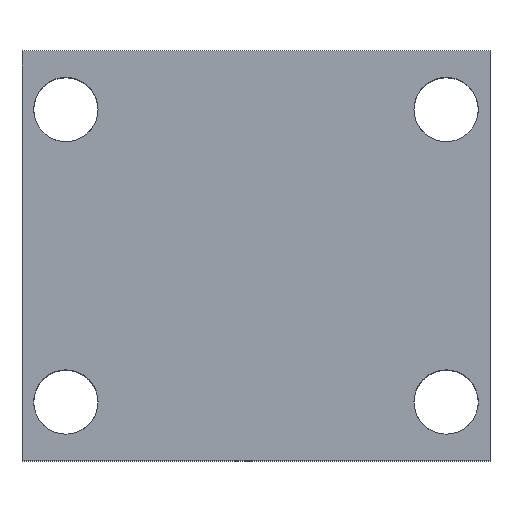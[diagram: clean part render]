
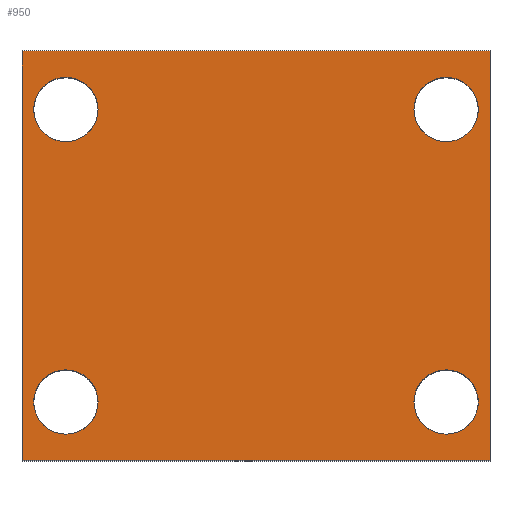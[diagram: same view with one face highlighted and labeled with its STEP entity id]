
A CAD part, top view. The second image highlights one B-rep face of the part: STEP entity #950.
In plain terms, the highlighted planar face has unit normal (0, 0, 1).
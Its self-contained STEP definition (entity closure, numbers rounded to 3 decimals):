
#100 = DIRECTION ( 'NONE',  ( 0., 0., -1. ) ) ;
#104 = ORIENTED_EDGE ( 'NONE', *, *, #6876, .F. ) ;
#159 = CARTESIAN_POINT ( 'NONE',  ( 76., 120., 52.5 ) ) ;
#176 = VERTEX_POINT ( 'NONE', #16468 ) ;
#187 = CIRCLE ( 'NONE', #13057, 11. ) ;
#255 = VERTEX_POINT ( 'NONE', #15032 ) ;
#393 = EDGE_CURVE ( 'NONE', #3187, #17435, #13123, .T. ) ;
#635 = ORIENTED_EDGE ( 'NONE', *, *, #12275, .T. ) ;
#872 = EDGE_LOOP ( 'NONE', ( #9556, #8804, #104, #1027 ) ) ;
#950 = ADVANCED_FACE ( 'NONE', ( #11684, #4582, #8851, #7937, #8405 ), #4528, .F. ) ;
#966 = AXIS2_PLACEMENT_3D ( 'NONE', #16345, #8192, #17710 ) ;
#974 = VERTEX_POINT ( 'NONE', #9606 ) ;
#1027 = ORIENTED_EDGE ( 'NONE', *, *, #9418, .T. ) ;
#1116 = ORIENTED_EDGE ( 'NONE', *, *, #5574, .T. ) ;
#1321 = DIRECTION ( 'NONE',  ( -1., 0., 0. ) ) ;
#1445 = DIRECTION ( 'NONE',  ( 0., 0., -1. ) ) ;
#1598 = DIRECTION ( 'NONE',  ( 0., -1., 0. ) ) ;
#1798 = ORIENTED_EDGE ( 'NONE', *, *, #10511, .T. ) ;
#2377 = CARTESIAN_POINT ( 'NONE',  ( 80., 140., 52.5 ) ) ;
#2559 = CIRCLE ( 'NONE', #11455, 11. ) ;
#3187 = VERTEX_POINT ( 'NONE', #159 ) ;
#3361 = VERTEX_POINT ( 'NONE', #12255 ) ;
#3375 = DIRECTION ( 'NONE',  ( 0., 0., -1. ) ) ;
#3400 = VECTOR ( 'NONE', #1598, 1000. ) ;
#3684 = EDGE_CURVE ( 'NONE', #13992, #15959, #14019, .T. ) ;
#3953 = CARTESIAN_POINT ( 'NONE',  ( -65., 20., 52.5 ) ) ;
#4528 = PLANE ( 'NONE',  #15364 ) ;
#4582 = FACE_BOUND ( 'NONE', #18047, .T. ) ;
#4817 = CIRCLE ( 'NONE', #15383, 11. ) ;
#5145 = ORIENTED_EDGE ( 'NONE', *, *, #17924, .T. ) ;
#5342 = CARTESIAN_POINT ( 'NONE',  ( 65., 120., 52.5 ) ) ;
#5399 = DIRECTION ( 'NONE',  ( -1., 0., 0. ) ) ;
#5474 = CARTESIAN_POINT ( 'NONE',  ( 65., 20., 52.5 ) ) ;
#5574 = EDGE_CURVE ( 'NONE', #176, #974, #4817, .T. ) ;
#5956 = CARTESIAN_POINT ( 'NONE',  ( -80., 140., 52.5 ) ) ;
#6021 = DIRECTION ( 'NONE',  ( -1., 0., 0. ) ) ;
#6091 = EDGE_CURVE ( 'NONE', #6383, #9186, #2559, .T. ) ;
#6293 = CIRCLE ( 'NONE', #966, 11. ) ;
#6383 = VERTEX_POINT ( 'NONE', #10078 ) ;
#6721 = DIRECTION ( 'NONE',  ( 1., 0., 0. ) ) ;
#6835 = VERTEX_POINT ( 'NONE', #9509 ) ;
#6876 = EDGE_CURVE ( 'NONE', #3361, #255, #10816, .T. ) ;
#6922 = DIRECTION ( 'NONE',  ( -1., 0., 0. ) ) ;
#7213 = LINE ( 'NONE', #11568, #3400 ) ;
#7257 = AXIS2_PLACEMENT_3D ( 'NONE', #5474, #15196, #6922 ) ;
#7297 = VECTOR ( 'NONE', #8221, 1000. ) ;
#7304 = CARTESIAN_POINT ( 'NONE',  ( 54., 20., 52.5 ) ) ;
#7461 = CARTESIAN_POINT ( 'NONE',  ( 54., 120., 52.5 ) ) ;
#7817 = EDGE_LOOP ( 'NONE', ( #1798, #14366 ) ) ;
#7836 = AXIS2_PLACEMENT_3D ( 'NONE', #17983, #9915, #1321 ) ;
#7937 = FACE_BOUND ( 'NONE', #7817, .T. ) ;
#8192 = DIRECTION ( 'NONE',  ( 0., 0., -1. ) ) ;
#8221 = DIRECTION ( 'NONE',  ( 1., 0., 0. ) ) ;
#8329 = ORIENTED_EDGE ( 'NONE', *, *, #16898, .T. ) ;
#8372 = AXIS2_PLACEMENT_3D ( 'NONE', #5342, #3375, #11877 ) ;
#8405 = FACE_OUTER_BOUND ( 'NONE', #872, .T. ) ;
#8512 = CARTESIAN_POINT ( 'NONE',  ( 65., 20., 52.5 ) ) ;
#8712 = CARTESIAN_POINT ( 'NONE',  ( -65., 120., 52.5 ) ) ;
#8804 = ORIENTED_EDGE ( 'NONE', *, *, #15153, .F. ) ;
#8851 = FACE_BOUND ( 'NONE', #9604, .T. ) ;
#9186 = VERTEX_POINT ( 'NONE', #9281 ) ;
#9209 = CIRCLE ( 'NONE', #7257, 11. ) ;
#9281 = CARTESIAN_POINT ( 'NONE',  ( -76., 120., 52.5 ) ) ;
#9389 = VERTEX_POINT ( 'NONE', #7304 ) ;
#9418 = EDGE_CURVE ( 'NONE', #3361, #13992, #7213, .T. ) ;
#9509 = CARTESIAN_POINT ( 'NONE',  ( 76., 20., 52.5 ) ) ;
#9544 = DIRECTION ( 'NONE',  ( 0., -1., 0. ) ) ;
#9556 = ORIENTED_EDGE ( 'NONE', *, *, #3684, .T. ) ;
#9604 = EDGE_LOOP ( 'NONE', ( #8329, #5145 ) ) ;
#9606 = CARTESIAN_POINT ( 'NONE',  ( -54., 20., 52.5 ) ) ;
#9915 = DIRECTION ( 'NONE',  ( 0., 0., -1. ) ) ;
#9935 = DIRECTION ( 'NONE',  ( -1., 0., 0. ) ) ;
#10031 = CARTESIAN_POINT ( 'NONE',  ( -65., 20., 52.5 ) ) ;
#10078 = CARTESIAN_POINT ( 'NONE',  ( -54., 120., 52.5 ) ) ;
#10122 = DIRECTION ( 'NONE',  ( -1., 0., 0. ) ) ;
#10511 = EDGE_CURVE ( 'NONE', #17435, #3187, #6293, .T. ) ;
#10816 = LINE ( 'NONE', #10902, #17529 ) ;
#10902 = CARTESIAN_POINT ( 'NONE',  ( -80., 140., 52.5 ) ) ;
#11423 = DIRECTION ( 'NONE',  ( -1., 0., 0. ) ) ;
#11455 = AXIS2_PLACEMENT_3D ( 'NONE', #8712, #100, #10122 ) ;
#11568 = CARTESIAN_POINT ( 'NONE',  ( -80., 140., 52.5 ) ) ;
#11684 = FACE_BOUND ( 'NONE', #13879, .T. ) ;
#11877 = DIRECTION ( 'NONE',  ( -1., 0., 0. ) ) ;
#12255 = CARTESIAN_POINT ( 'NONE',  ( -80., 140., 52.5 ) ) ;
#12275 = EDGE_CURVE ( 'NONE', #974, #176, #12798, .T. ) ;
#12798 = CIRCLE ( 'NONE', #14050, 11. ) ;
#12916 = DIRECTION ( 'NONE',  ( 0., 0., -1. ) ) ;
#12987 = CARTESIAN_POINT ( 'NONE',  ( 80., 0., 52.5 ) ) ;
#13057 = AXIS2_PLACEMENT_3D ( 'NONE', #8512, #18002, #9935 ) ;
#13123 = CIRCLE ( 'NONE', #8372, 11. ) ;
#13164 = EDGE_CURVE ( 'NONE', #9186, #6383, #15949, .T. ) ;
#13206 = ORIENTED_EDGE ( 'NONE', *, *, #6091, .T. ) ;
#13378 = LINE ( 'NONE', #2377, #16948 ) ;
#13756 = DIRECTION ( 'NONE',  ( 0., 0., -1. ) ) ;
#13879 = EDGE_LOOP ( 'NONE', ( #17154, #13206 ) ) ;
#13938 = CARTESIAN_POINT ( 'NONE',  ( -80., 0., 52.5 ) ) ;
#13992 = VERTEX_POINT ( 'NONE', #13938 ) ;
#14019 = LINE ( 'NONE', #16370, #7297 ) ;
#14050 = AXIS2_PLACEMENT_3D ( 'NONE', #3953, #13756, #5399 ) ;
#14366 = ORIENTED_EDGE ( 'NONE', *, *, #393, .T. ) ;
#15032 = CARTESIAN_POINT ( 'NONE',  ( 80., 140., 52.5 ) ) ;
#15153 = EDGE_CURVE ( 'NONE', #255, #15959, #13378, .T. ) ;
#15196 = DIRECTION ( 'NONE',  ( 0., 0., -1. ) ) ;
#15364 = AXIS2_PLACEMENT_3D ( 'NONE', #5956, #12916, #6021 ) ;
#15383 = AXIS2_PLACEMENT_3D ( 'NONE', #10031, #1445, #11423 ) ;
#15949 = CIRCLE ( 'NONE', #7836, 11. ) ;
#15959 = VERTEX_POINT ( 'NONE', #12987 ) ;
#16345 = CARTESIAN_POINT ( 'NONE',  ( 65., 120., 52.5 ) ) ;
#16370 = CARTESIAN_POINT ( 'NONE',  ( -80., 0., 52.5 ) ) ;
#16468 = CARTESIAN_POINT ( 'NONE',  ( -76., 20., 52.5 ) ) ;
#16898 = EDGE_CURVE ( 'NONE', #9389, #6835, #9209, .T. ) ;
#16948 = VECTOR ( 'NONE', #9544, 1000. ) ;
#17154 = ORIENTED_EDGE ( 'NONE', *, *, #13164, .T. ) ;
#17435 = VERTEX_POINT ( 'NONE', #7461 ) ;
#17529 = VECTOR ( 'NONE', #6721, 1000. ) ;
#17710 = DIRECTION ( 'NONE',  ( -1., 0., 0. ) ) ;
#17924 = EDGE_CURVE ( 'NONE', #6835, #9389, #187, .T. ) ;
#17983 = CARTESIAN_POINT ( 'NONE',  ( -65., 120., 52.5 ) ) ;
#18002 = DIRECTION ( 'NONE',  ( 0., 0., -1. ) ) ;
#18047 = EDGE_LOOP ( 'NONE', ( #1116, #635 ) ) ;
